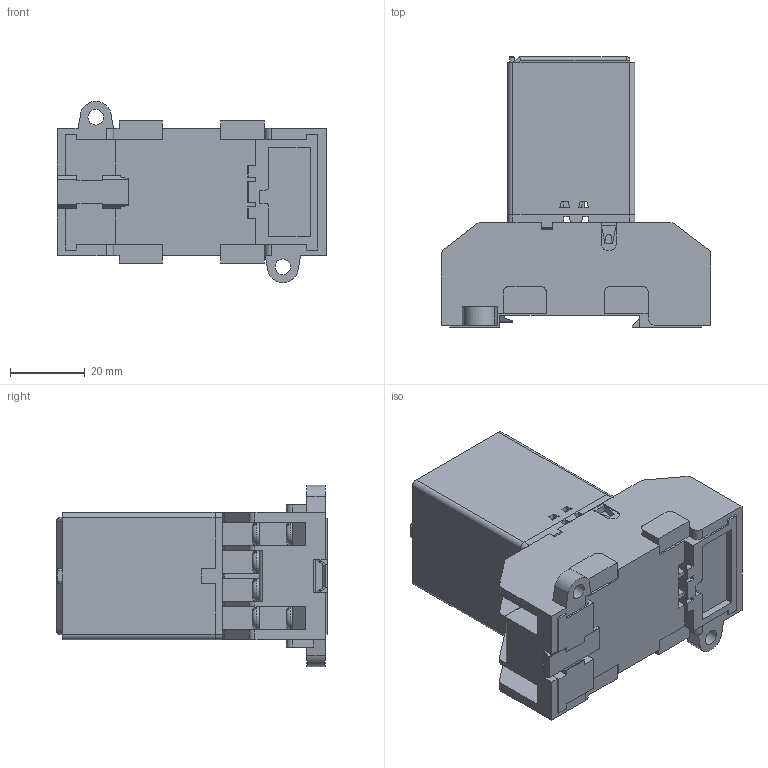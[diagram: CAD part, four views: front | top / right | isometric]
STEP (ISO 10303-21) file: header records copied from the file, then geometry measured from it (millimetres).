
FILE_DESCRIPTION(('STEP AP214'), '1');
FILE_NAME('Êîëîäêà ÐÏ21-004 òèï 3', '', ('UNSPECIFIED'), ('UNSPECIFIED'), 'ASCON STEP Converter 1.6', 'ASCON Math Kernel', '');
FILE_SCHEMA(('AUTOMOTIVE_DESIGN { 1 0 10303 214 3 1 1}'));
Length unit declared in the file: millimetre
Assembly tree (19 placements, depth 3):
  (unnamed)
    (unnamed)
    (unnamed)
    (unnamed)  x14
      (unnamed)
      (unnamed)
    (unnamed)
Bounding box: 72.1 x 72.3 x 48.38 mm (x, y, z)
Volume: 64345.9 mm3; surface area: 38477.1 mm2
Topology: 48 solids, 48 shells, 1605 faces, 4287 edges, 2815 vertices
Faces by surface type: plane 1307, cylinder 262, torus 16, cone 16, bspline 2, sphere 2
Full cylindrical faces by diameter (mm): 1 x6, 2.5 x2, 2.85 x14, 2.9 x2, 3 x14, 3.2 x1, 4.2 x2, 4.5 x2, 6 x16
Entity records: 55260 total; most frequent: CARTESIAN_POINT 7913, ORIENTED_EDGE 7565, DIRECTION 7015, EDGE_CURVE 3784, LINE 3309, VECTOR 3309, VERTEX_POINT 2505, AXIS2_PLACEMENT_3D 1853
